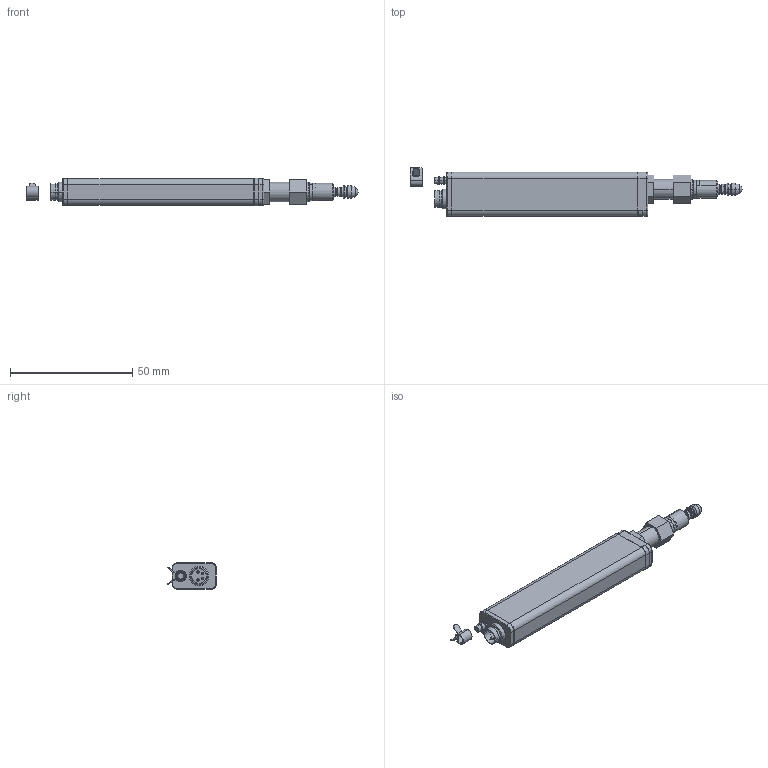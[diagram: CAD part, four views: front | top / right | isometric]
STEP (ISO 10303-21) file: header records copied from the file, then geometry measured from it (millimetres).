
FILE_DESCRIPTION (( 'STEP AP203' ), '1' );
FILE_NAME ('SA-Sx10PD_step_01.STEP', '2020-01-24T09:25:29', ( '' ), ( '' ), 'SwSTEP 2.0', 'SolidWorks 2016', '' );
FILE_SCHEMA (( 'CONFIG_CONTROL_DESIGN' ));
Length unit declared in the file: millimetre
Products named in the file (9): SA-Sx10PD_step_01; シールキャップ; 端子; ナット10_hp; ss5; ss4; ホースクランプ; スピンドル_hp; 本体10PD_hp
Assembly tree (8 placements, depth 2):
  SA-Sx10PD_step_01
    本体10PD_hp
    スピンドル_hp
    端子
    ナット10_hp
    ss5
    シールキャップ
    ss4
    ホースクランプ
Bounding box: 135.53 x 19.99 x 11.2 mm (x, y, z)
Volume: 18189.6 mm3; surface area: 7807.3 mm2
Topology: 8 solids, 8 shells, 323 faces, 734 edges, 445 vertices
Faces by surface type: cylinder 126, plane 104, torus 46, cone 44, bspline 2, sphere 1
Entity records: 10148 total; most frequent: CARTESIAN_POINT 1737, DIRECTION 1734, ORIENTED_EDGE 1444, EDGE_CURVE 722, AXIS2_PLACEMENT_3D 706, VERTEX_POINT 444, CIRCLE 374, EDGE_LOOP 362
